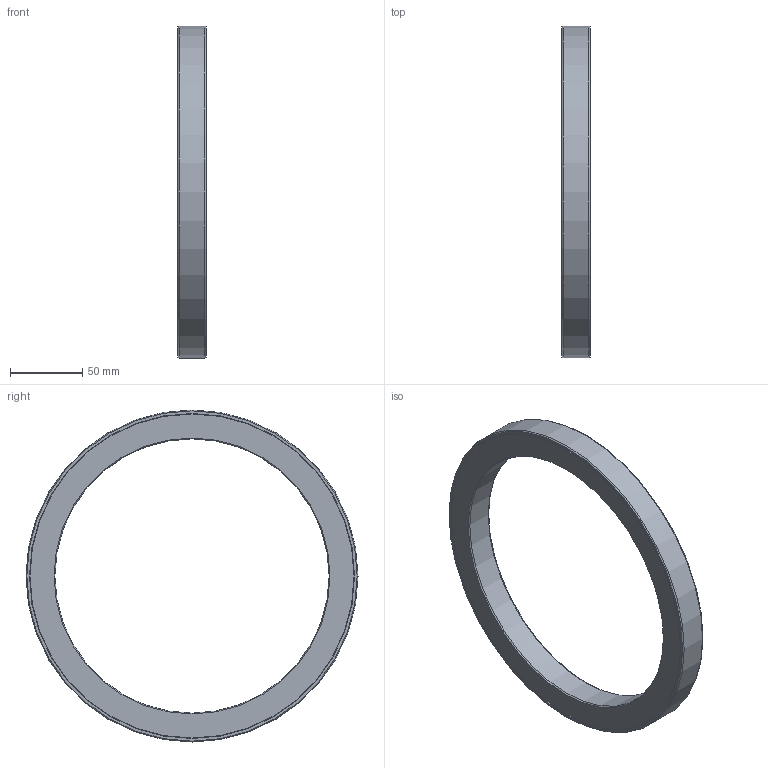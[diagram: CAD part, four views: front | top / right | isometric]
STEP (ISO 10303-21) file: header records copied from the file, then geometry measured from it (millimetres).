
FILE_DESCRIPTION(/* description */ (''),/* implementation_level */ '2;1');
FILE_NAME(/* name */ '301316 L 190x230x20.stp',/* time_stamp */ '2016-12-15T10:37:42+01:00',/* author */ (''),/* organization */ (''),/* preprocessor_version */ 'ST-DEVELOPER v15',/* originating_system */ 'SIEMENS PLM Software NX 8.5',/* authorisation */ '');
FILE_SCHEMA (('CONFIG_CONTROL_DESIGN'));
Length unit declared in the file: millimetre
Products named in the file (1): ATE0000122_01
Bounding box: 20 x 230 x 230 mm (x, y, z)
Volume: 258763.5 mm3; surface area: 80335.8 mm2
Topology: 2 solids, 2 shells, 18 faces, 34 edges, 20 vertices
Faces by surface type: cone 12, plane 4, cylinder 2
Full cylindrical faces by diameter (mm): 190 x1, 230 x1
Entity records: 454 total; most frequent: DIRECTION 74, CARTESIAN_POINT 55, AXIS2_PLACEMENT_3D 37, FACE_BOUND 36, EDGE_LOOP 36, ORIENTED_EDGE 36, ADVANCED_FACE 18, VERTEX_POINT 18
